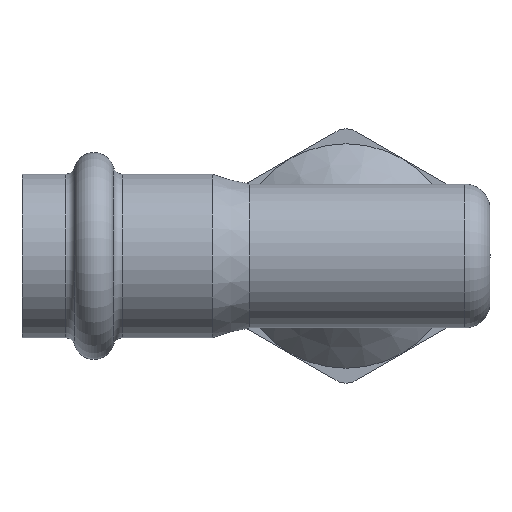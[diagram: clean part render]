
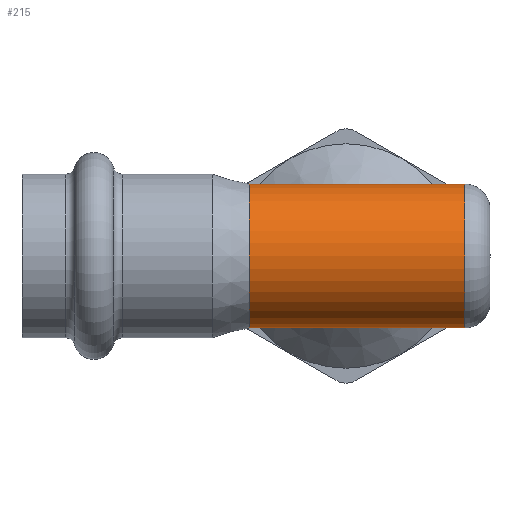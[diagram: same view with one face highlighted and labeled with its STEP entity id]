
A CAD part, front view. The second image highlights one B-rep face of the part: STEP entity #215.
In plain terms, the highlighted cylindrical face has radius 8 mm (diameter 16 mm), a full revolution.
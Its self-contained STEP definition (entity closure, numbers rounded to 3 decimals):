
#99=ELLIPSE('',#708,12.042,8.);
#100=ELLIPSE('',#709,12.042,8.);
#191=CYLINDRICAL_SURFACE('',#711,8.);
#215=ADVANCED_FACE('',(#280,#281,#282),#191,.T.);
#280=FACE_BOUND('',#334,.T.);
#281=FACE_BOUND('',#335,.T.);
#282=FACE_BOUND('',#336,.T.);
#334=EDGE_LOOP('',(#407,#408));
#335=EDGE_LOOP('',(#409));
#336=EDGE_LOOP('',(#410));
#407=ORIENTED_EDGE('',*,*,#591,.T.);
#408=ORIENTED_EDGE('',*,*,#592,.T.);
#409=ORIENTED_EDGE('',*,*,#593,.F.);
#410=ORIENTED_EDGE('',*,*,#590,.T.);
#536=VERTEX_POINT('',#1046);
#537=VERTEX_POINT('',#1049);
#538=VERTEX_POINT('',#1050);
#539=VERTEX_POINT('',#1053);
#590=EDGE_CURVE('',#536,#536,#656,.T.);
#591=EDGE_CURVE('',#537,#538,#99,.T.);
#592=EDGE_CURVE('',#538,#537,#100,.T.);
#593=EDGE_CURVE('',#539,#539,#657,.T.);
#656=CIRCLE('',#706,8.);
#657=CIRCLE('',#710,8.);
#706=AXIS2_PLACEMENT_3D('',#1045,#815,#816);
#708=AXIS2_PLACEMENT_3D('',#1048,#819,#820);
#709=AXIS2_PLACEMENT_3D('',#1051,#821,#822);
#710=AXIS2_PLACEMENT_3D('',#1052,#823,#824);
#711=AXIS2_PLACEMENT_3D('',#1054,#825,#826);
#815=DIRECTION('',(-1.,0.,0.));
#816=DIRECTION('',(0.,-1.,0.));
#819=DIRECTION('',(-0.664,-0.747,0.));
#820=DIRECTION('',(-0.747,0.664,0.));
#821=DIRECTION('',(0.664,-0.747,0.));
#822=DIRECTION('',(-0.747,-0.664,0.));
#823=DIRECTION('',(-1.,0.,0.));
#824=DIRECTION('',(0.,-1.,0.));
#825=DIRECTION('',(-1.,0.,0.));
#826=DIRECTION('',(0.,-1.,0.));
#1045=CARTESIAN_POINT('',(13.2,0.,0.));
#1046=CARTESIAN_POINT('',(13.2,-8.,0.));
#1048=CARTESIAN_POINT('',(0.,0.,0.));
#1049=CARTESIAN_POINT('',(0.,0.,8.));
#1050=CARTESIAN_POINT('',(0.,0.,-8.));
#1051=CARTESIAN_POINT('',(0.,0.,0.));
#1052=CARTESIAN_POINT('',(-10.763,0.,0.));
#1053=CARTESIAN_POINT('',(-10.763,-8.,0.));
#1054=CARTESIAN_POINT('',(-8.,0.,0.));
